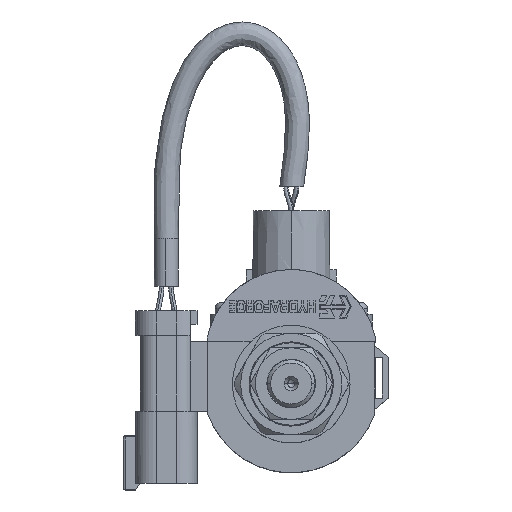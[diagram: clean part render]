
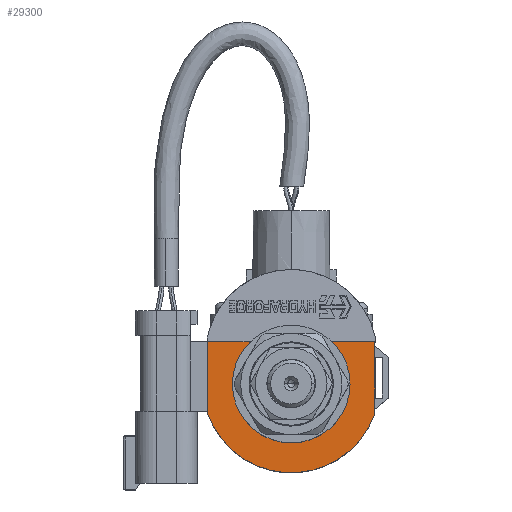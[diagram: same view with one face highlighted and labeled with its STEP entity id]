
A CAD part, top view. The second image highlights one B-rep face of the part: STEP entity #29300.
In plain terms, the highlighted planar face has unit normal (0, 0, 1).
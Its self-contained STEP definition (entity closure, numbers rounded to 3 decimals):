
#9614=CARTESIAN_POINT('',(0.,0.,24.384));
#9615=DIRECTION('',(0.,0.,1.));
#9616=DIRECTION('',(-0.803,0.596,0.));
#9617=AXIS2_PLACEMENT_3D('',#9614,#9615,#9616);
#9619=CARTESIAN_POINT('',(0.,0.,24.384));
#9620=DIRECTION('',(0.,0.,1.));
#9621=DIRECTION('',(-1.,0.,0.));
#9622=AXIS2_PLACEMENT_3D('',#9619,#9620,#9621);
#9624=CARTESIAN_POINT('',(0.,0.,24.384));
#9625=DIRECTION('',(0.,0.,1.));
#9626=DIRECTION('',(1.,0.,0.));
#9627=AXIS2_PLACEMENT_3D('',#9624,#9625,#9626);
#9629=DIRECTION('',(0.,1.,0.));
#9630=VECTOR('',#9629,2.921);
#9631=CARTESIAN_POINT('',(11.214,8.331,24.384));
#9632=LINE('',#9631,#9630);
#9633=DIRECTION('',(1.,0.,0.));
#9634=VECTOR('',#9633,11.062);
#9635=CARTESIAN_POINT('',(11.214,11.252,24.384));
#9636=LINE('',#9635,#9634);
#9637=DIRECTION('',(0.,-1.,0.));
#9638=VECTOR('',#9637,18.923);
#9639=CARTESIAN_POINT('',(22.276,11.252,24.384));
#9640=LINE('',#9639,#9638);
#9641=CARTESIAN_POINT('',(0.,0.,24.384));
#9642=DIRECTION('',(0.,0.,-1.));
#9643=DIRECTION('',(0.946,-0.326,0.));
#9644=AXIS2_PLACEMENT_3D('',#9641,#9642,#9643);
#9646=DIRECTION('',(0.,1.,0.));
#9647=VECTOR('',#9646,18.923);
#9648=CARTESIAN_POINT('',(-22.276,-7.671,24.384));
#9649=LINE('',#9648,#9647);
#9650=DIRECTION('',(1.,0.,0.));
#9651=VECTOR('',#9650,11.062);
#9652=CARTESIAN_POINT('',(-22.276,11.252,24.384));
#9653=LINE('',#9652,#9651);
#9654=DIRECTION('',(0.,-1.,0.));
#9655=VECTOR('',#9654,2.921);
#9656=CARTESIAN_POINT('',(-11.214,11.252,24.384));
#9657=LINE('',#9656,#9655);
#18843=CARTESIAN_POINT('',(-22.276,11.252,24.384));
#18844=VERTEX_POINT('',#18843);
#18845=CARTESIAN_POINT('',(-22.276,-7.671,24.384));
#18846=VERTEX_POINT('',#18845);
#18857=CARTESIAN_POINT('',(-11.214,8.331,24.384));
#18858=CARTESIAN_POINT('',(-13.97,0.,24.384));
#18859=VERTEX_POINT('',#18857);
#18860=VERTEX_POINT('',#18858);
#18861=CARTESIAN_POINT('',(13.97,0.,24.384));
#18862=VERTEX_POINT('',#18861);
#18863=CARTESIAN_POINT('',(11.214,8.331,24.384));
#18864=VERTEX_POINT('',#18863);
#18865=CARTESIAN_POINT('',(11.214,11.252,24.384));
#18866=VERTEX_POINT('',#18865);
#18867=CARTESIAN_POINT('',(22.276,11.252,24.384));
#18868=VERTEX_POINT('',#18867);
#18869=CARTESIAN_POINT('',(22.276,-7.671,24.384));
#18870=VERTEX_POINT('',#18869);
#18871=CARTESIAN_POINT('',(-11.214,11.252,24.384));
#18872=VERTEX_POINT('',#18871);
#29274=CARTESIAN_POINT('',(0.,11.252,24.384));
#29275=DIRECTION('',(0.,0.,1.));
#29276=DIRECTION('',(0.,1.,0.));
#29277=AXIS2_PLACEMENT_3D('',#29274,#29275,#29276);
#29278=PLANE('',#29277);
#29280=ORIENTED_EDGE('',*,*,#29279,.T.);
#29282=ORIENTED_EDGE('',*,*,#29281,.T.);
#29284=ORIENTED_EDGE('',*,*,#29283,.T.);
#29286=ORIENTED_EDGE('',*,*,#29285,.T.);
#29288=ORIENTED_EDGE('',*,*,#29287,.T.);
#29290=ORIENTED_EDGE('',*,*,#29289,.T.);
#29292=ORIENTED_EDGE('',*,*,#29291,.T.);
#29293=ORIENTED_EDGE('',*,*,#29255,.T.);
#29295=ORIENTED_EDGE('',*,*,#29294,.T.);
#29297=ORIENTED_EDGE('',*,*,#29296,.T.);
#29298=EDGE_LOOP('',(#29280,#29282,#29284,#29286,#29288,#29290,#29292,#29293,
#29295,#29297));
#29299=FACE_OUTER_BOUND('',#29298,.F.);
#29300=ADVANCED_FACE('',(#29299),#29278,.T.);
#9618=CIRCLE('',#9617,13.97);
#9623=CIRCLE('',#9622,13.97);
#9628=CIRCLE('',#9627,13.97);
#9645=CIRCLE('',#9644,23.56);
#29255=EDGE_CURVE('',#18846,#18844,#9649,.T.);
#29279=EDGE_CURVE('',#18859,#18860,#9618,.T.);
#29281=EDGE_CURVE('',#18860,#18862,#9623,.T.);
#29283=EDGE_CURVE('',#18862,#18864,#9628,.T.);
#29285=EDGE_CURVE('',#18864,#18866,#9632,.T.);
#29287=EDGE_CURVE('',#18866,#18868,#9636,.T.);
#29289=EDGE_CURVE('',#18868,#18870,#9640,.T.);
#29291=EDGE_CURVE('',#18870,#18846,#9645,.T.);
#29294=EDGE_CURVE('',#18844,#18872,#9653,.T.);
#29296=EDGE_CURVE('',#18872,#18859,#9657,.T.);
